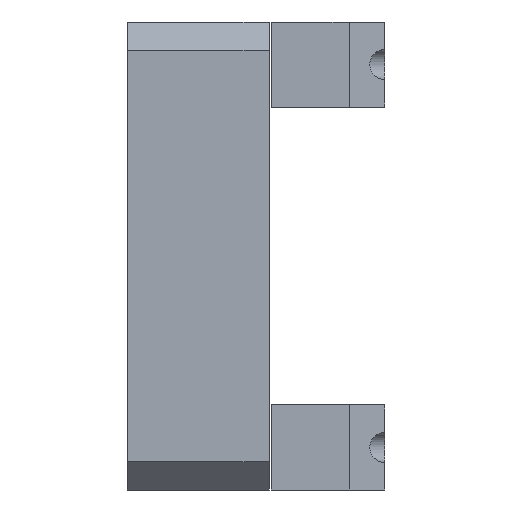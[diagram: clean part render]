
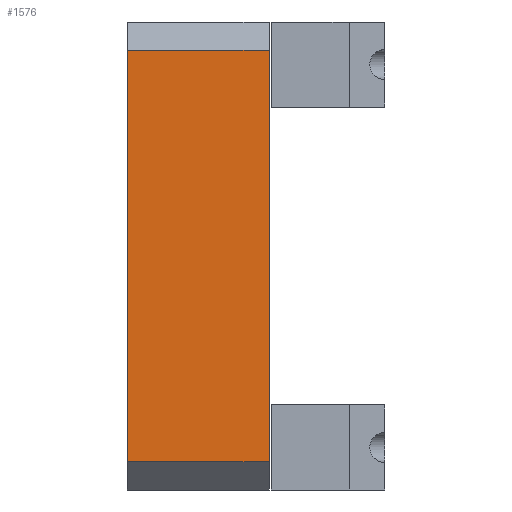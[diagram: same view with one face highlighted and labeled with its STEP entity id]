
A CAD part, left-side view. The second image highlights one B-rep face of the part: STEP entity #1576.
In plain terms, the highlighted planar face has unit normal (-1, 0, 0).
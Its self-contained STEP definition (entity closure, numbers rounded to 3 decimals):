
#203 = ORIENTED_EDGE ( 'NONE', *, *, #2042, .T. ) ;
#204 = ORIENTED_EDGE ( 'NONE', *, *, #1989, .T. ) ;
#205 = ORIENTED_EDGE ( 'NONE', *, *, #2052, .F. ) ;
#208 = ORIENTED_EDGE ( 'NONE', *, *, #2004, .F. ) ;
#370 = CARTESIAN_POINT ( 'NONE',  ( 0., 0., -33. ) ) ;
#372 = DIRECTION ( 'NONE',  ( 0., 0., 1. ) ) ;
#387 = CARTESIAN_POINT ( 'NONE',  ( 0., 20., -33. ) ) ;
#403 = DIRECTION ( 'NONE',  ( 0., 0., 1. ) ) ;
#439 = PLANE ( 'NONE',  #1773 ) ;
#440 = CARTESIAN_POINT ( 'NONE',  ( 0., 20., -33. ) ) ;
#441 = DIRECTION ( 'NONE',  ( 1., 0., 0. ) ) ;
#442 = DIRECTION ( 'NONE',  ( 0., 0., -1. ) ) ;
#518 = CARTESIAN_POINT ( 'NONE',  ( 0., 0., 29. ) ) ;
#1129 = VERTEX_POINT ( 'NONE', #518 ) ;
#1146 = VERTEX_POINT ( 'NONE', #2385 ) ;
#1254 = VERTEX_POINT ( 'NONE', #2336 ) ;
#1322 = EDGE_LOOP ( 'NONE', ( #208, #203, #204, #205 ) ) ;
#1576 = ADVANCED_FACE ( 'NONE', ( #2512 ), #439, .F. ) ;
#1773 = AXIS2_PLACEMENT_3D ( 'NONE', #440, #441, #442 ) ;
#1816 = LINE ( 'NONE', #370, #1819 ) ;
#1819 = VECTOR ( 'NONE', #372, 1000. ) ;
#1834 = LINE ( 'NONE', #387, #1848 ) ;
#1848 = VECTOR ( 'NONE', #403, 1000. ) ;
#1899 = LINE ( 'NONE', #2610, #1902 ) ;
#1902 = VECTOR ( 'NONE', #2617, 1000. ) ;
#1919 = LINE ( 'NONE', #2616, #1920 ) ;
#1920 = VECTOR ( 'NONE', #2611, 1000. ) ;
#1989 = EDGE_CURVE ( 'NONE', #1146, #1129, #1816, .T. ) ;
#2004 = EDGE_CURVE ( 'NONE', #1254, #2147, #1834, .T. ) ;
#2042 = EDGE_CURVE ( 'NONE', #1254, #1146, #1899, .T. ) ;
#2052 = EDGE_CURVE ( 'NONE', #2147, #1129, #1919, .T. ) ;
#2097 = CARTESIAN_POINT ( 'NONE',  ( 0., 20., 29. ) ) ;
#2147 = VERTEX_POINT ( 'NONE', #2097 ) ;
#2336 = CARTESIAN_POINT ( 'NONE',  ( 0., 20., -29. ) ) ;
#2385 = CARTESIAN_POINT ( 'NONE',  ( 0., 0., -29. ) ) ;
#2512 = FACE_OUTER_BOUND ( 'NONE', #1322, .T. ) ;
#2610 = CARTESIAN_POINT ( 'NONE',  ( 0., 20., -29. ) ) ;
#2611 = DIRECTION ( 'NONE',  ( 0., -1., 0. ) ) ;
#2616 = CARTESIAN_POINT ( 'NONE',  ( 0., 20., 29. ) ) ;
#2617 = DIRECTION ( 'NONE',  ( 0., -1., 0. ) ) ;
